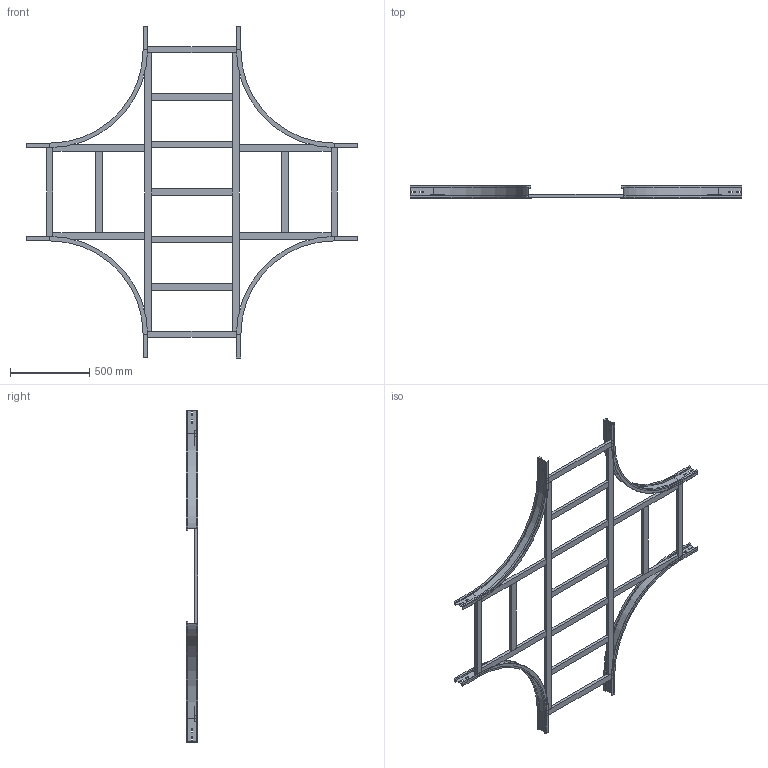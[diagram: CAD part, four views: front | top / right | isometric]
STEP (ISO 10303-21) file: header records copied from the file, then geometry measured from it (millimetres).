
FILE_DESCRIPTION (( 'STEP AP214' ), '1' );
FILE_NAME ('17S6C600.step', '2025-02-21T16:19:13', ( '' ), ( '' ), 'SwSTEP 2.0', 'SolidWorks 2023', '' );
FILE_SCHEMA (( 'AUTOMOTIVE_DESIGN' ));
Length unit declared in the file: millimetre
Products named in the file (7): 17S6C600; LONGH.INTERNO 90°_H75_R600; TRAVERSINO_COPPIA_600; TRAVERSINO_INTERMEDIO_X_R600+600; TRAVERSINO_600; TRAVERSINO_LONG._R600+600; TRAVERSINO_VERT_R600
Assembly tree (21 placements, depth 2):
  17S6C600
    LONGH.INTERNO 90°_H75_R600  x4
    TRAVERSINO_600  x4
    TRAVERSINO_LONG._R600+600  x2
    TRAVERSINO_INTERMEDIO_X_R600+600  x5
    TRAVERSINO_VERT_R600  x4
    TRAVERSINO_COPPIA_600  x2
Bounding box: 2100 x 75 x 2100 mm (x, y, z)
Volume: 12039563.5 mm3; surface area: 2689285.8 mm2
Topology: 21 solids, 21 shells, 318 faces, 732 edges, 456 vertices
Faces by surface type: plane 294, cylinder 24
Entity records: 2652 total; most frequent: CARTESIAN_POINT 420, DIRECTION 420, ORIENTED_EDGE 384, EDGE_CURVE 192, LINE 180, VECTOR 180, VERTEX_POINT 120, AXIS2_PLACEMENT_3D 120
